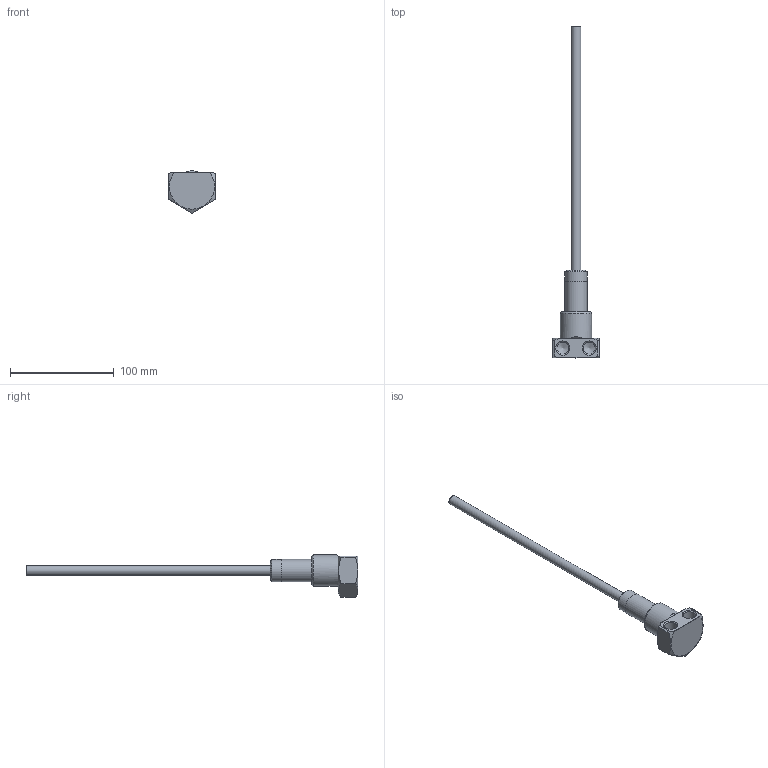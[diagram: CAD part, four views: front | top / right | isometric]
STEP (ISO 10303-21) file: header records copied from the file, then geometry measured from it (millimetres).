
FILE_DESCRIPTION(/* description */ (''),/* implementation_level */ '2;1');
FILE_NAME(/* name */ 'C:/Users/drich/Desktop/ET1214 v1.step',/* time_stamp */ '2020-01-15T19:49:58-06:00',/* author */ (''),/* organization */ (''),/* preprocessor_version */ 'ST-DEVELOPER v18',/* originating_system */ 'Autodesk Translation Framework v8.12.0.6',/* authorisation */ '');
FILE_SCHEMA (('AUTOMOTIVE_DESIGN { 1 0 10303 214 3 1 1 }'));
Length unit declared in the file: inch
Products named in the file (4): ET1214; ET1214H; SSPN12-2; HF375T-12
Assembly tree (3 placements, depth 2):
  ET1214
    ET1214H
    SSPN12-2
    HF375T-12
Bounding box: 44.45 x 320.55 x 40.72 mm (x, y, z)
Volume: 44846.5 mm3; surface area: 34638.2 mm2
Topology: 3 solids, 3 shells, 56 faces, 143 edges, 99 vertices
Faces by surface type: plane 24, cylinder 18, cone 10, torus 4
Full cylindrical faces by diameter (mm): 8.636 x1, 9.271 x1, 9.881 x1, 10.978 x1, 11.151 x1, 11.668 x2, 15.799 x1, 18.901 x1, 21.285 x2, 21.336 x1, 30.124 x1
Entity records: 1858 total; most frequent: CARTESIAN_POINT 345, DIRECTION 326, ORIENTED_EDGE 282, AXIS2_PLACEMENT_3D 143, EDGE_CURVE 141, VERTEX_POINT 99, CIRCLE 77, EDGE_LOOP 68
